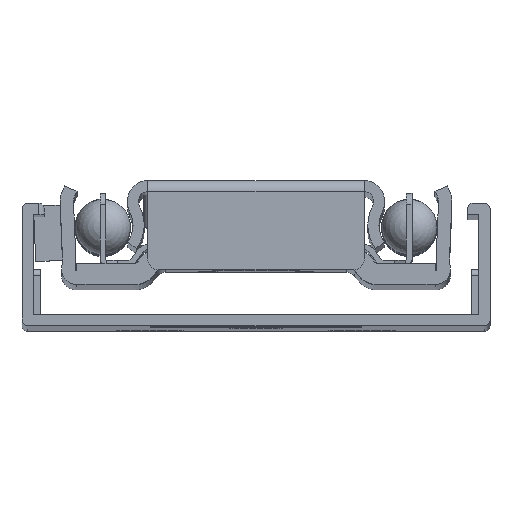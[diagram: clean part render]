
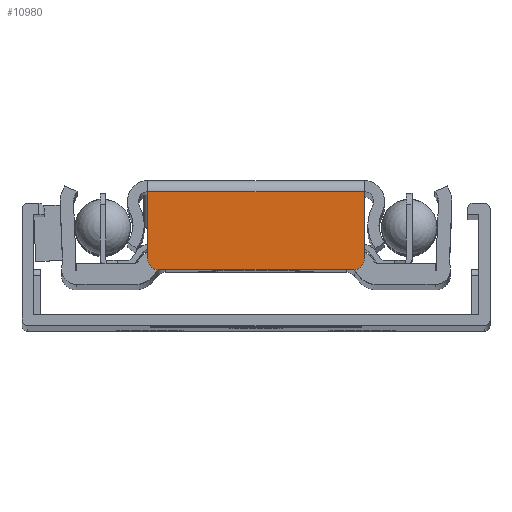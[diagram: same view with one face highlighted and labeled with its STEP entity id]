
A CAD part, top view. The second image highlights one B-rep face of the part: STEP entity #10980.
In plain terms, the highlighted planar face has unit normal (0, 0, 1).
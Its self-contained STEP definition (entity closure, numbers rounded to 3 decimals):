
#519=PLANE('',#12066);
#1065=FACE_OUTER_BOUND('',#1723,.T.);
#1723=EDGE_LOOP('',(#10064,#10065,#10066,#10067,#10068,#10069));
#2805=LINE('',#18571,#3892);
#2806=LINE('',#18574,#3893);
#2807=LINE('',#18578,#3894);
#2808=LINE('',#18581,#3895);
#3892=VECTOR('',#15172,10.);
#3893=VECTOR('',#15175,10.);
#3894=VECTOR('',#15178,10.);
#3895=VECTOR('',#15181,10.);
#4396=CIRCLE('',#12067,1.);
#4397=CIRCLE('',#12068,1.);
#5432=VERTEX_POINT('',#18567);
#5433=VERTEX_POINT('',#18569);
#5434=VERTEX_POINT('',#18573);
#5435=VERTEX_POINT('',#18575);
#5436=VERTEX_POINT('',#18577);
#5437=VERTEX_POINT('',#18579);
#6999=EDGE_CURVE('',#5433,#5432,#2805,.T.);
#7000=EDGE_CURVE('',#5433,#5434,#2806,.T.);
#7001=EDGE_CURVE('',#5435,#5434,#4396,.T.);
#7002=EDGE_CURVE('',#5435,#5436,#2807,.T.);
#7003=EDGE_CURVE('',#5437,#5436,#4397,.T.);
#7004=EDGE_CURVE('',#5432,#5437,#2808,.T.);
#10064=ORIENTED_EDGE('',*,*,#6999,.F.);
#10065=ORIENTED_EDGE('',*,*,#7000,.T.);
#10066=ORIENTED_EDGE('',*,*,#7001,.F.);
#10067=ORIENTED_EDGE('',*,*,#7002,.T.);
#10068=ORIENTED_EDGE('',*,*,#7003,.F.);
#10069=ORIENTED_EDGE('',*,*,#7004,.F.);
#10980=ADVANCED_FACE('',(#1065),#519,.T.);
#12066=AXIS2_PLACEMENT_3D('',#18572,#15173,#15174);
#12067=AXIS2_PLACEMENT_3D('',#18576,#15176,#15177);
#12068=AXIS2_PLACEMENT_3D('',#18580,#15179,#15180);
#15172=DIRECTION('',(-1.,0.,0.));
#15173=DIRECTION('center_axis',(0.,0.,1.));
#15174=DIRECTION('ref_axis',(1.,0.,0.));
#15175=DIRECTION('',(0.,1.,0.));
#15176=DIRECTION('center_axis',(0.,0.,-1.));
#15177=DIRECTION('ref_axis',(0.707,0.707,0.));
#15178=DIRECTION('',(-1.,0.,0.));
#15179=DIRECTION('center_axis',(0.,0.,-1.));
#15180=DIRECTION('ref_axis',(-0.707,0.707,0.));
#15181=DIRECTION('',(0.,1.,0.));
#18567=CARTESIAN_POINT('',(4.892,-4.95,271.));
#18569=CARTESIAN_POINT('',(24.354,-4.95,271.));
#18571=CARTESIAN_POINT('',(19.501,-4.95,271.));
#18572=CARTESIAN_POINT('Origin',(24.354,-5.95,271.));
#18573=CARTESIAN_POINT('',(24.354,1.05,271.));
#18574=CARTESIAN_POINT('',(24.354,-5.95,271.));
#18575=CARTESIAN_POINT('',(23.354,2.05,271.));
#18576=CARTESIAN_POINT('Origin',(23.354,1.05,271.));
#18577=CARTESIAN_POINT('',(5.892,2.05,271.));
#18578=CARTESIAN_POINT('',(24.354,2.05,271.));
#18579=CARTESIAN_POINT('',(4.892,1.05,271.));
#18580=CARTESIAN_POINT('Origin',(5.892,1.05,271.));
#18581=CARTESIAN_POINT('',(4.892,-5.95,271.));
